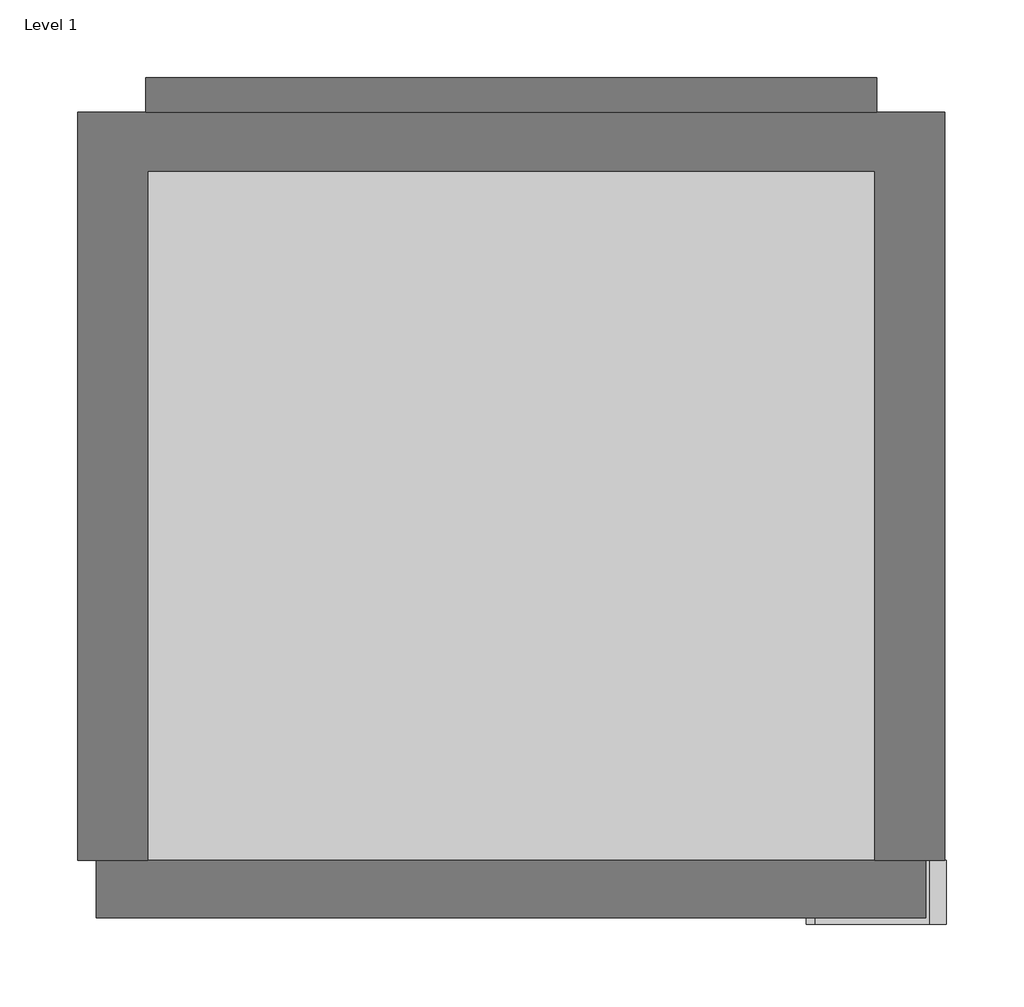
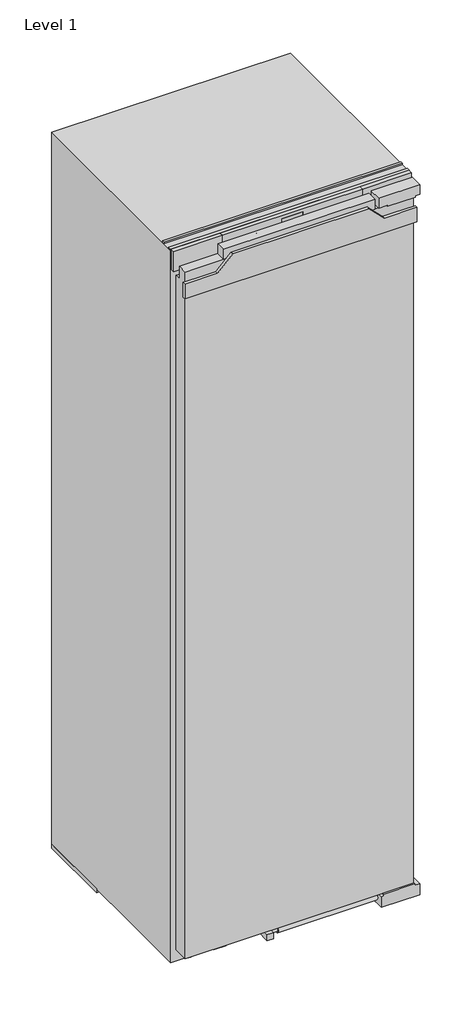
# One storey: 1 proxy.
"""IFC4 building model written with IfcOpenShell, lengths in millimetres."""

from ifc_helpers import new_model, si_unit, origin, place, context, project, spatial, transform, mapped, element, save
from components import specialty_equipment_7dd4978d

model = new_model("IFC4")

# Units and contexts
model_context = context("Model", 3, world=origin())
ifc_project = project(units=[si_unit("LENGTHUNIT", "METRE", prefix="MILLI")], contexts=[model_context])

# Site, building, storey
site = spatial("IfcSite", under=ifc_project)
building = spatial("IfcBuilding", under=site)
storey = spatial("IfcBuildingStorey", under=building, Name="Level 1", Elevation=0.0)

# Proxy
placement = place(None, origin())
specialty_equipment_shape = specialty_equipment_7dd4978d(model_context)
element("IfcBuildingElementProxy", 1, Name="11641850_EU1_K7774D : 36777400_EU1_11641850_K7774D", ObjectType="11641850_EU1_K7774D : 36777400_EU1_11641850_K7774D", at=placement, inside=storey, context=model_context, shape_type="MappedRepresentation", body=[
    mapped(specialty_equipment_shape, transform((0.0, 0.0, 0.0), x_axis=(1.0, 0.0, 0.0), y_axis=(0.0, 1.0, 0.0), z_axis=(0.0, 0.0, 1.0))),
])

save(model, "model.ifc")
